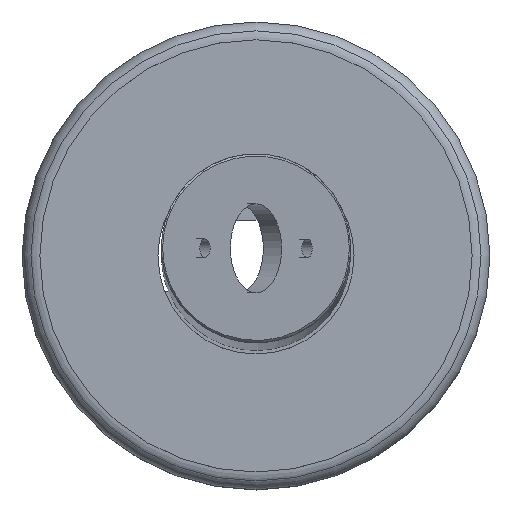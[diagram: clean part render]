
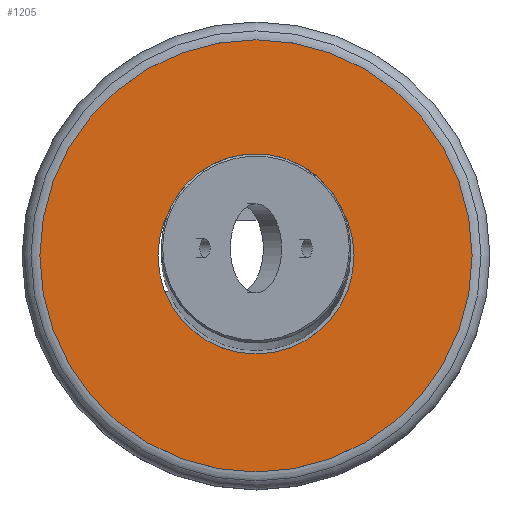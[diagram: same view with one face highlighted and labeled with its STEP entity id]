
A CAD part, top view. The second image highlights one B-rep face of the part: STEP entity #1205.
In plain terms, the highlighted planar face has unit normal (0, 0, 1).
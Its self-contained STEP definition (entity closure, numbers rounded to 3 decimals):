
#150=PLANE('',#1323);
#205=CIRCLE('',#1321,22.);
#207=CIRCLE('',#1324,48.5);
#429=ORIENTED_EDGE('',*,*,#552,.F.);
#430=ORIENTED_EDGE('',*,*,#550,.T.);
#550=EDGE_CURVE('',#632,#632,#205,.T.);
#552=EDGE_CURVE('',#634,#634,#207,.T.);
#632=VERTEX_POINT('',#2658);
#634=VERTEX_POINT('',#2663);
#715=EDGE_LOOP('',(#429));
#716=EDGE_LOOP('',(#430));
#798=FACE_BOUND('',#715,.T.);
#799=FACE_BOUND('',#716,.T.);
#1205=ADVANCED_FACE('',(#798,#799),#150,.F.);
#1321=AXIS2_PLACEMENT_3D('',#2657,#1581,#1582);
#1323=AXIS2_PLACEMENT_3D('',#2661,#1585,#1586);
#1324=AXIS2_PLACEMENT_3D('',#2662,#1587,#1588);
#1581=DIRECTION('',(0.,0.,-1.));
#1582=DIRECTION('',(-1.,0.,0.));
#1585=DIRECTION('',(0.,0.,-1.));
#1586=DIRECTION('',(-1.,0.,0.));
#1587=DIRECTION('',(0.,0.,-1.));
#1588=DIRECTION('',(-1.,0.,0.));
#2657=CARTESIAN_POINT('',(0.,0.,25.));
#2658=CARTESIAN_POINT('',(-22.,0.,25.));
#2661=CARTESIAN_POINT('',(-22.,0.,25.));
#2662=CARTESIAN_POINT('',(0.,0.,25.));
#2663=CARTESIAN_POINT('',(-48.5,0.,25.));
